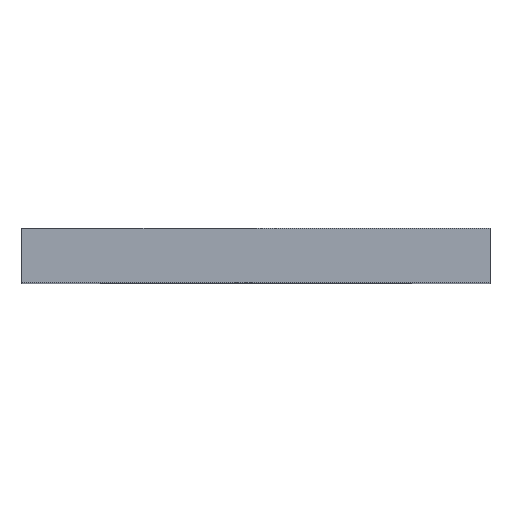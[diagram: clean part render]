
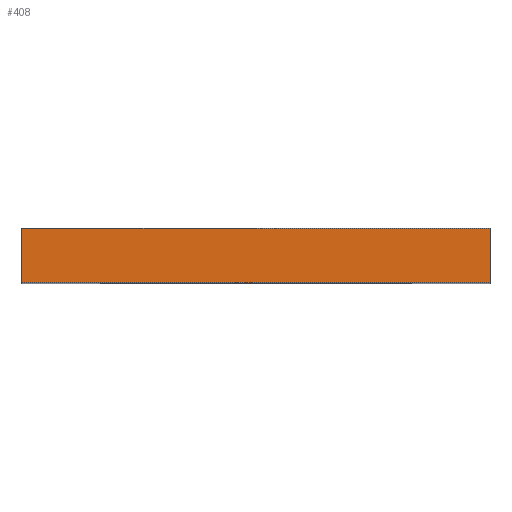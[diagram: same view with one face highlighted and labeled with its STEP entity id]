
A CAD part, top view. The second image highlights one B-rep face of the part: STEP entity #408.
In plain terms, the highlighted planar face has unit normal (0, 0, 1).
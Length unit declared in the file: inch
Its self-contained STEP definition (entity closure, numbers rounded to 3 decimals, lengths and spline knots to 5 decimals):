
#21 = EDGE_LOOP ( 'NONE', ( #952, #929, #918, #911 ) ) ;
#24 = CARTESIAN_POINT ( 'NONE',  ( -2.125, 0.497, 2.5375 ) ) ;
#40 = PLANE ( 'NONE',  #190 ) ;
#49 = DIRECTION ( 'NONE',  ( 0., 0., -1. ) ) ;
#52 = DIRECTION ( 'NONE',  ( -1., 0., 0. ) ) ;
#86 = EDGE_CURVE ( 'NONE', #272, #910, #1318, .T. ) ;
#113 = CARTESIAN_POINT ( 'NONE',  ( -2.125, 0., 2.5375 ) ) ;
#137 = EDGE_CURVE ( 'NONE', #272, #655, #1249, .T. ) ;
#159 = VECTOR ( 'NONE', #710, 39.37008 ) ;
#190 = AXIS2_PLACEMENT_3D ( 'NONE', #24, #49, #52 ) ;
#199 = CARTESIAN_POINT ( 'NONE',  ( -2.125, 0., 2.5375 ) ) ;
#214 = VERTEX_POINT ( 'NONE', #627 ) ;
#272 = VERTEX_POINT ( 'NONE', #669 ) ;
#313 = DIRECTION ( 'NONE',  ( 1., 0., 0. ) ) ;
#373 = CARTESIAN_POINT ( 'NONE',  ( 2.125, 0.497, 2.5375 ) ) ;
#394 = DIRECTION ( 'NONE',  ( 0., -1., 0. ) ) ;
#408 = ADVANCED_FACE ( 'NONE', ( #1116 ), #40, .F. ) ;
#595 = VECTOR ( 'NONE', #313, 39.37008 ) ;
#606 = CARTESIAN_POINT ( 'NONE',  ( 2.125, 0.497, 2.5375 ) ) ;
#627 = CARTESIAN_POINT ( 'NONE',  ( 2.125, 0., 2.5375 ) ) ;
#655 = VERTEX_POINT ( 'NONE', #199 ) ;
#669 = CARTESIAN_POINT ( 'NONE',  ( -2.125, 0.497, 2.5375 ) ) ;
#684 = DIRECTION ( 'NONE',  ( 0., -1., 0. ) ) ;
#690 = CARTESIAN_POINT ( 'NONE',  ( -2.125, 0.497, 2.5375 ) ) ;
#710 = DIRECTION ( 'NONE',  ( 1., 0., 0. ) ) ;
#718 = CARTESIAN_POINT ( 'NONE',  ( -2.125, 0.497, 2.5375 ) ) ;
#795 = EDGE_CURVE ( 'NONE', #910, #214, #1304, .T. ) ;
#889 = EDGE_CURVE ( 'NONE', #655, #214, #1032, .T. ) ;
#910 = VERTEX_POINT ( 'NONE', #606 ) ;
#911 = ORIENTED_EDGE ( 'NONE', *, *, #137, .T. ) ;
#918 = ORIENTED_EDGE ( 'NONE', *, *, #86, .F. ) ;
#929 = ORIENTED_EDGE ( 'NONE', *, *, #795, .F. ) ;
#952 = ORIENTED_EDGE ( 'NONE', *, *, #889, .T. ) ;
#1032 = LINE ( 'NONE', #113, #595 ) ;
#1116 = FACE_OUTER_BOUND ( 'NONE', #21, .T. ) ;
#1153 = VECTOR ( 'NONE', #684, 39.37008 ) ;
#1171 = VECTOR ( 'NONE', #394, 39.37008 ) ;
#1249 = LINE ( 'NONE', #690, #1153 ) ;
#1304 = LINE ( 'NONE', #373, #1171 ) ;
#1318 = LINE ( 'NONE', #718, #159 ) ;
